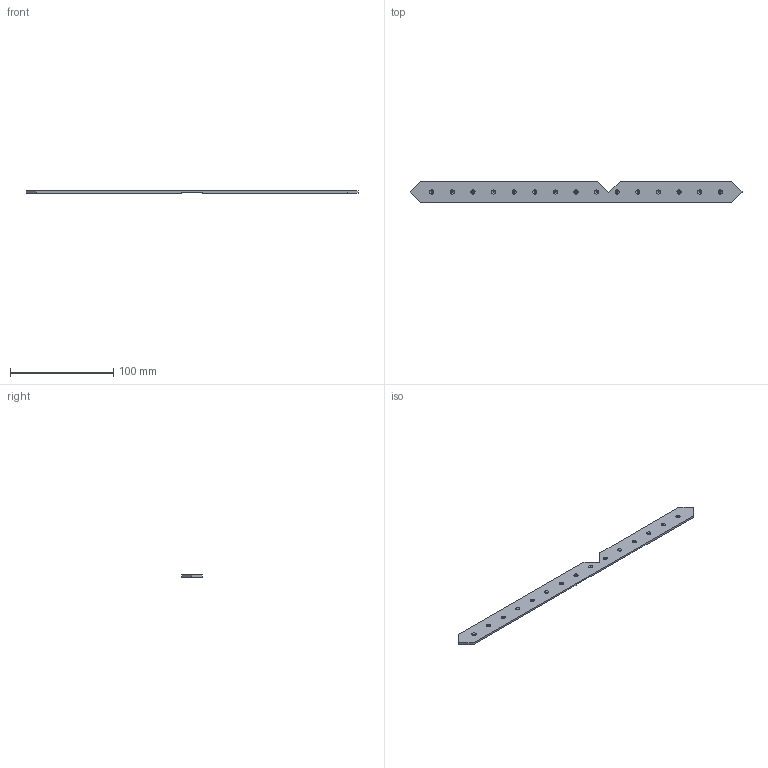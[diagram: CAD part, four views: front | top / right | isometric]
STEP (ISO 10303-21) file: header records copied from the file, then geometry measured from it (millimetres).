
FILE_DESCRIPTION (( 'STEP AP214' ), '1' );
FILE_NAME ('SC40_2.STEP', '2016-02-26T17:41:03', ( '' ), ( '' ), 'SwSTEP 2.0', 'SolidWorks 2012', '' );
FILE_SCHEMA (( 'AUTOMOTIVE_DESIGN' ));
Length unit declared in the file: millimetre
Products named in the file (1): SC40_2
Bounding box: 322.22 x 20 x 2 mm (x, y, z)
Volume: 11696.4 mm3; surface area: 13642.7 mm2
Topology: 1 solids, 1 shells, 73 faces, 185 edges, 114 vertices
Faces by surface type: cone 30, cylinder 28, plane 15
Entity records: 2297 total; most frequent: DIRECTION 421, CARTESIAN_POINT 373, ORIENTED_EDGE 370, EDGE_CURVE 185, AXIS2_PLACEMENT_3D 162, VERTEX_POINT 114, EDGE_LOOP 103, VECTOR 97
